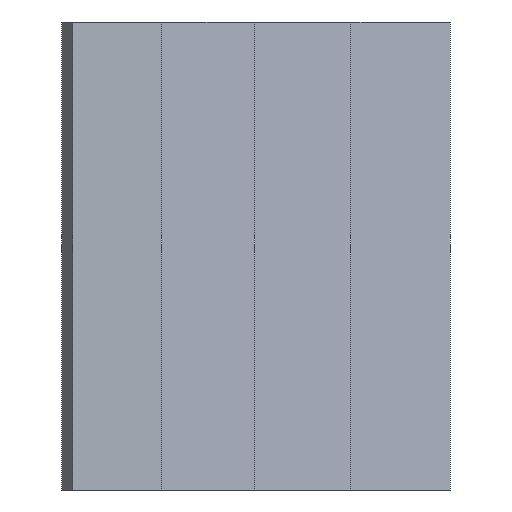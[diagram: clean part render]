
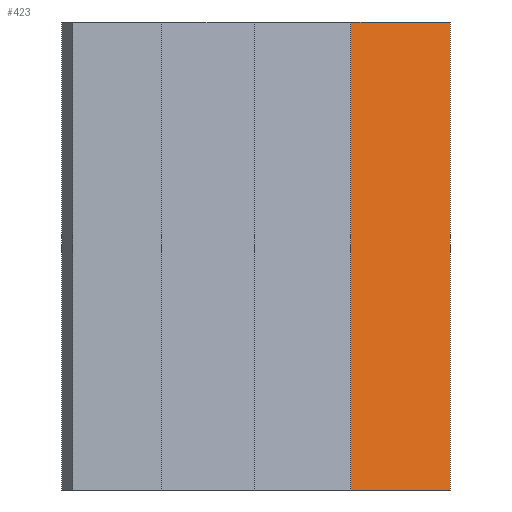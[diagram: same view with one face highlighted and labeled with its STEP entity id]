
A CAD part, left-side view. The second image highlights one B-rep face of the part: STEP entity #423.
In plain terms, the highlighted planar face has unit normal (-0.903, -0.43, 0).
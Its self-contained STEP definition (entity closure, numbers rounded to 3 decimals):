
#44 = PLANE('',#45);
#45 = AXIS2_PLACEMENT_3D('',#46,#47,#48);
#46 = CARTESIAN_POINT('',(197.263,138.417,168.));
#47 = DIRECTION('',(0.,-0.,-1.));
#48 = DIRECTION('',(0.519,-0.855,0.));
#97 = PLANE('',#98);
#98 = AXIS2_PLACEMENT_3D('',#99,#100,#101);
#99 = CARTESIAN_POINT('',(197.263,138.417,232.));
#100 = DIRECTION('',(0.,-0.,-1.));
#101 = DIRECTION('',(0.519,-0.855,0.));
#318 = PLANE('',#319);
#319 = AXIS2_PLACEMENT_3D('',#320,#321,#322);
#320 = CARTESIAN_POINT('',(229.014,86.16,232.));
#321 = DIRECTION('',(-0.375,0.927,0.));
#322 = DIRECTION('',(-0.927,-0.375,0.));
#355 = VERTEX_POINT('',#356);
#356 = CARTESIAN_POINT('',(226.696,85.223,168.));
#377 = EDGE_CURVE('',#355,#378,#380,.T.);
#378 = VERTEX_POINT('',#379);
#379 = CARTESIAN_POINT('',(226.696,85.223,232.));
#380 = SURFACE_CURVE('',#381,(#384,#390),.PCURVE_S1.);
#381 = B_SPLINE_CURVE_WITH_KNOTS('',1,(#382,#383),.UNSPECIFIED.,.F.,.F.,
  (2,2),(0.,1.),.PIECEWISE_BEZIER_KNOTS.);
#382 = CARTESIAN_POINT('',(226.696,85.223,168.));
#383 = CARTESIAN_POINT('',(226.696,85.223,232.));
#384 = PCURVE('',#318,#385);
#385 = DEFINITIONAL_REPRESENTATION('',(#386),#389);
#386 = B_SPLINE_CURVE_WITH_KNOTS('',1,(#387,#388),.UNSPECIFIED.,.F.,.F.,
  (2,2),(0.,1.),.PIECEWISE_BEZIER_KNOTS.);
#387 = CARTESIAN_POINT('',(2.5,-64.));
#388 = CARTESIAN_POINT('',(2.5,0.));
#389 = ( GEOMETRIC_REPRESENTATION_CONTEXT(2) 
PARAMETRIC_REPRESENTATION_CONTEXT() REPRESENTATION_CONTEXT('2D SPACE',''
  ) );
#390 = PCURVE('',#391,#396);
#391 = PLANE('',#392);
#392 = AXIS2_PLACEMENT_3D('',#393,#394,#395);
#393 = CARTESIAN_POINT('',(226.696,85.223,232.));
#394 = DIRECTION('',(0.903,0.43,-0.));
#395 = DIRECTION('',(-0.43,0.903,0.));
#396 = DEFINITIONAL_REPRESENTATION('',(#397),#400);
#397 = B_SPLINE_CURVE_WITH_KNOTS('',1,(#398,#399),.UNSPECIFIED.,.F.,.F.,
  (2,2),(0.,1.),.PIECEWISE_BEZIER_KNOTS.);
#398 = CARTESIAN_POINT('',(0.,-64.));
#399 = CARTESIAN_POINT('',(0.,0.));
#400 = ( GEOMETRIC_REPRESENTATION_CONTEXT(2) 
PARAMETRIC_REPRESENTATION_CONTEXT() REPRESENTATION_CONTEXT('2D SPACE',''
  ) );
#423 = ADVANCED_FACE('',(#424),#391,.F.);
#424 = FACE_BOUND('',#425,.F.);
#425 = EDGE_LOOP('',(#426,#449,#474,#495));
#426 = ORIENTED_EDGE('',*,*,#427,.T.);
#427 = EDGE_CURVE('',#355,#428,#430,.T.);
#428 = VERTEX_POINT('',#429);
#429 = CARTESIAN_POINT('',(220.221,98.836,168.));
#430 = SURFACE_CURVE('',#431,(#435,#442),.PCURVE_S1.);
#431 = LINE('',#432,#433);
#432 = CARTESIAN_POINT('',(226.696,85.223,168.));
#433 = VECTOR('',#434,1.);
#434 = DIRECTION('',(-0.43,0.903,0.));
#435 = PCURVE('',#391,#436);
#436 = DEFINITIONAL_REPRESENTATION('',(#437),#441);
#437 = LINE('',#438,#439);
#438 = CARTESIAN_POINT('',(0.,-64.));
#439 = VECTOR('',#440,1.);
#440 = DIRECTION('',(1.,0.));
#441 = ( GEOMETRIC_REPRESENTATION_CONTEXT(2) 
PARAMETRIC_REPRESENTATION_CONTEXT() REPRESENTATION_CONTEXT('2D SPACE',''
  ) );
#442 = PCURVE('',#44,#443);
#443 = DEFINITIONAL_REPRESENTATION('',(#444),#448);
#444 = LINE('',#445,#446);
#445 = CARTESIAN_POINT('',(60.744,2.467));
#446 = VECTOR('',#447,1.);
#447 = DIRECTION('',(-0.995,-0.102));
#448 = ( GEOMETRIC_REPRESENTATION_CONTEXT(2) 
PARAMETRIC_REPRESENTATION_CONTEXT() REPRESENTATION_CONTEXT('2D SPACE',''
  ) );
#449 = ORIENTED_EDGE('',*,*,#450,.T.);
#450 = EDGE_CURVE('',#428,#451,#453,.T.);
#451 = VERTEX_POINT('',#452);
#452 = CARTESIAN_POINT('',(220.221,98.836,232.));
#453 = SURFACE_CURVE('',#454,(#457,#463),.PCURVE_S1.);
#454 = B_SPLINE_CURVE_WITH_KNOTS('',1,(#455,#456),.UNSPECIFIED.,.F.,.F.,
  (2,2),(0.,1.),.PIECEWISE_BEZIER_KNOTS.);
#455 = CARTESIAN_POINT('',(220.221,98.836,168.));
#456 = CARTESIAN_POINT('',(220.221,98.836,232.));
#457 = PCURVE('',#391,#458);
#458 = DEFINITIONAL_REPRESENTATION('',(#459),#462);
#459 = B_SPLINE_CURVE_WITH_KNOTS('',1,(#460,#461),.UNSPECIFIED.,.F.,.F.,
  (2,2),(0.,1.),.PIECEWISE_BEZIER_KNOTS.);
#460 = CARTESIAN_POINT('',(15.075,-64.));
#461 = CARTESIAN_POINT('',(15.075,0.));
#462 = ( GEOMETRIC_REPRESENTATION_CONTEXT(2) 
PARAMETRIC_REPRESENTATION_CONTEXT() REPRESENTATION_CONTEXT('2D SPACE',''
  ) );
#463 = PCURVE('',#464,#469);
#464 = PLANE('',#465);
#465 = AXIS2_PLACEMENT_3D('',#466,#467,#468);
#466 = CARTESIAN_POINT('',(220.221,98.836,232.));
#467 = DIRECTION('',(0.872,0.49,-0.));
#468 = DIRECTION('',(-0.49,0.872,0.));
#469 = DEFINITIONAL_REPRESENTATION('',(#470),#473);
#470 = B_SPLINE_CURVE_WITH_KNOTS('',1,(#471,#472),.UNSPECIFIED.,.F.,.F.,
  (2,2),(0.,1.),.PIECEWISE_BEZIER_KNOTS.);
#471 = CARTESIAN_POINT('',(0.,-64.));
#472 = CARTESIAN_POINT('',(0.,0.));
#473 = ( GEOMETRIC_REPRESENTATION_CONTEXT(2) 
PARAMETRIC_REPRESENTATION_CONTEXT() REPRESENTATION_CONTEXT('2D SPACE',''
  ) );
#474 = ORIENTED_EDGE('',*,*,#475,.F.);
#475 = EDGE_CURVE('',#378,#451,#476,.T.);
#476 = SURFACE_CURVE('',#477,(#481,#488),.PCURVE_S1.);
#477 = LINE('',#478,#479);
#478 = CARTESIAN_POINT('',(226.696,85.223,232.));
#479 = VECTOR('',#480,1.);
#480 = DIRECTION('',(-0.43,0.903,0.));
#481 = PCURVE('',#391,#482);
#482 = DEFINITIONAL_REPRESENTATION('',(#483),#487);
#483 = LINE('',#484,#485);
#484 = CARTESIAN_POINT('',(0.,0.));
#485 = VECTOR('',#486,1.);
#486 = DIRECTION('',(1.,0.));
#487 = ( GEOMETRIC_REPRESENTATION_CONTEXT(2) 
PARAMETRIC_REPRESENTATION_CONTEXT() REPRESENTATION_CONTEXT('2D SPACE',''
  ) );
#488 = PCURVE('',#97,#489);
#489 = DEFINITIONAL_REPRESENTATION('',(#490),#494);
#490 = LINE('',#491,#492);
#491 = CARTESIAN_POINT('',(60.744,2.467));
#492 = VECTOR('',#493,1.);
#493 = DIRECTION('',(-0.995,-0.102));
#494 = ( GEOMETRIC_REPRESENTATION_CONTEXT(2) 
PARAMETRIC_REPRESENTATION_CONTEXT() REPRESENTATION_CONTEXT('2D SPACE',''
  ) );
#495 = ORIENTED_EDGE('',*,*,#377,.F.);
